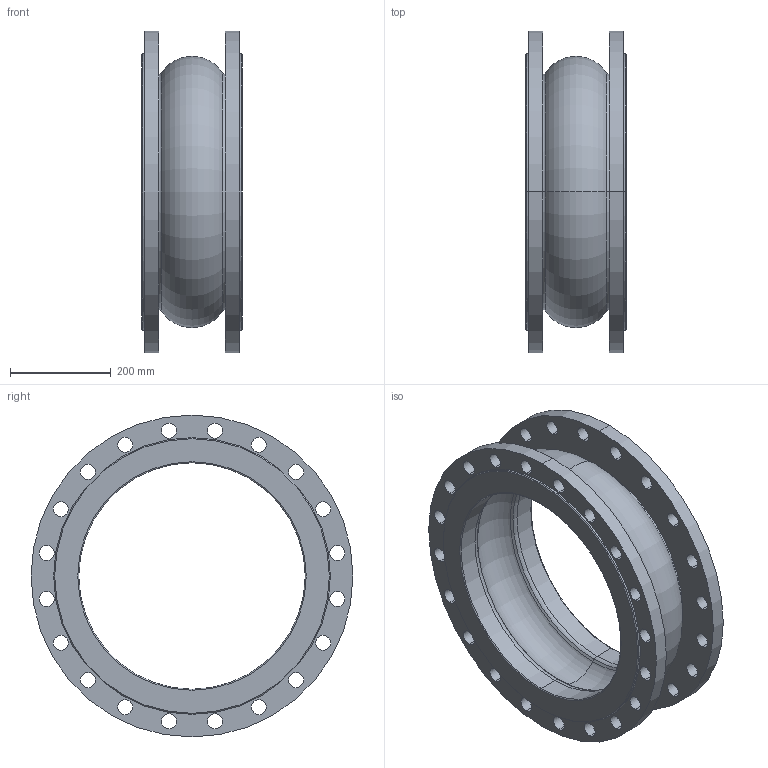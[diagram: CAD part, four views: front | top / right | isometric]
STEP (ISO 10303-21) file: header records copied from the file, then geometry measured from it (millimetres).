
FILE_DESCRIPTION (( 'STEP AP203' ), '1' );
FILE_NAME ('F8_PN16_DN450.STEP', '2012-10-31T09:23:40', ( 'luca.saino' ), ( 'Hewlett-Packard Company' ), 'SwSTEP 2.0', 'SolidWorks 2012', '' );
FILE_SCHEMA (( 'CONFIG_CONTROL_DESIGN' ));
Length unit declared in the file: millimetre
Products named in the file (1): F8_PN16_DN450
Bounding box: 200 x 640 x 640 mm (x, y, z)
Volume: 12515908.9 mm3; surface area: 1413201 mm2
Topology: 1 solids, 1 shells, 122 faces, 324 edges, 208 vertices
Faces by surface type: cylinder 92, torus 16, cone 8, plane 6
Entity records: 4141 total; most frequent: DIRECTION 794, CARTESIAN_POINT 655, ORIENTED_EDGE 648, AXIS2_PLACEMENT_3D 347, EDGE_CURVE 324, CIRCLE 224, EDGE_LOOP 208, VERTEX_POINT 208
